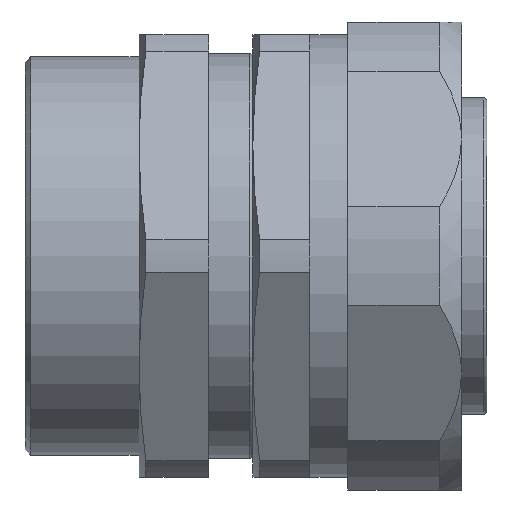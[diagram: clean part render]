
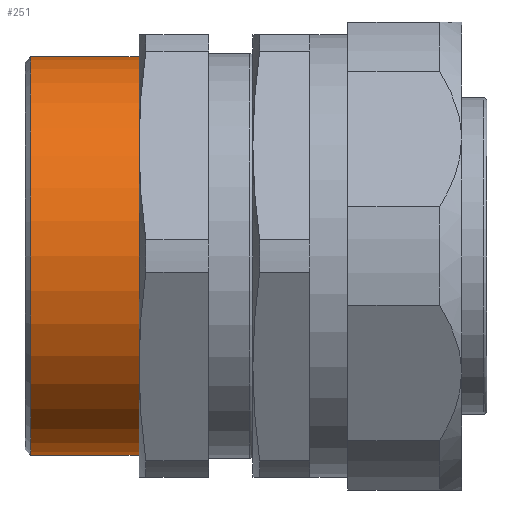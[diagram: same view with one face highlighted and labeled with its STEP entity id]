
A CAD part, front view. The second image highlights one B-rep face of the part: STEP entity #251.
In plain terms, the highlighted cylindrical face has radius 31.5 mm (diameter 63 mm), a full revolution.
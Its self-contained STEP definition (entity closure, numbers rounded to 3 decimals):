
#251 = ADVANCED_FACE( '', ( #521, #522 ), #523, .T. );
#521 = FACE_OUTER_BOUND( '', #792, .T. );
#522 = FACE_OUTER_BOUND( '', #793, .T. );
#523 = CYLINDRICAL_SURFACE( '', #794, 31.5 );
#792 = EDGE_LOOP( '', ( #1419 ) );
#793 = EDGE_LOOP( '', ( #1420 ) );
#794 = AXIS2_PLACEMENT_3D( '', #1421, #1422, #1423 );
#1419 = ORIENTED_EDGE( '', *, *, #1717, .F. );
#1420 = ORIENTED_EDGE( '', *, *, #1554, .T. );
#1421 = CARTESIAN_POINT( '', ( 18., 0., 0. ) );
#1422 = DIRECTION( '', ( -1., 0., 0. ) );
#1423 = DIRECTION( '', ( 0., 0., -1. ) );
#1554 = EDGE_CURVE( '', #1853, #1853, #1854, .T. );
#1717 = EDGE_CURVE( '', #2084, #2084, #2085, .T. );
#1853 = VERTEX_POINT( '', #2295 );
#1854 = CIRCLE( '', #2296, 31.5 );
#2084 = VERTEX_POINT( '', #2751 );
#2085 = CIRCLE( '', #2752, 31.5 );
#2295 = CARTESIAN_POINT( '', ( 0.92, 0., -31.5 ) );
#2296 = AXIS2_PLACEMENT_3D( '', #2873, #2874, #2875 );
#2751 = CARTESIAN_POINT( '', ( 18., 0., -31.5 ) );
#2752 = AXIS2_PLACEMENT_3D( '', #3064, #3065, #3066 );
#2873 = CARTESIAN_POINT( '', ( 0.92, 0., 0. ) );
#2874 = DIRECTION( '', ( 1., 0., 0. ) );
#2875 = DIRECTION( '', ( 0., 0., -1. ) );
#3064 = CARTESIAN_POINT( '', ( 18., 0., 0. ) );
#3065 = DIRECTION( '', ( 1., 0., 0. ) );
#3066 = DIRECTION( '', ( 0., 0., -1. ) );
